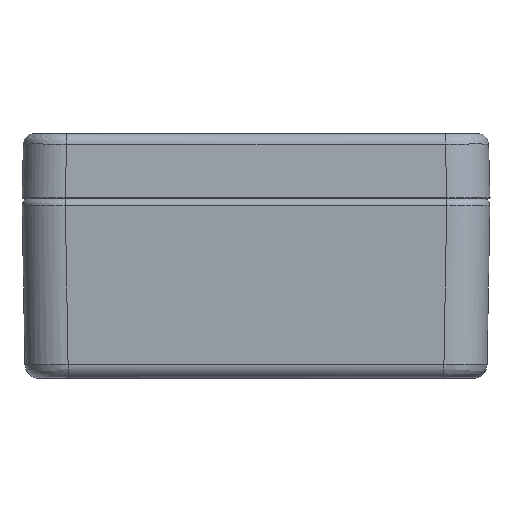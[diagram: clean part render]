
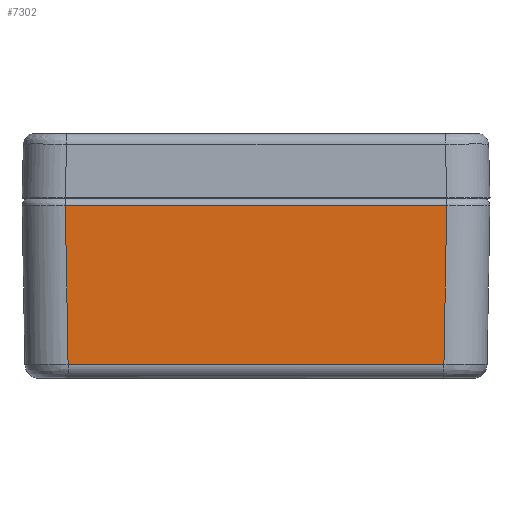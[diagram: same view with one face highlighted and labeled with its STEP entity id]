
A CAD part, left-side view. The second image highlights one B-rep face of the part: STEP entity #7302.
In plain terms, the highlighted planar face has unit normal (-1, 0, -0.018).
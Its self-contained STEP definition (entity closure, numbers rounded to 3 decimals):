
#2078 = VERTEX_POINT ( 'NONE', #17064 ) ;
#2182 = CARTESIAN_POINT ( 'NONE',  ( -49.482, 0., -1.017 ) ) ;
#2354 = LINE ( 'NONE', #6230, #18263 ) ;
#2552 = EDGE_CURVE ( 'NONE', #2078, #5406, #17825, .T. ) ;
#3110 = VECTOR ( 'NONE', #3922, 1000. ) ;
#3216 = EDGE_CURVE ( 'NONE', #5406, #4950, #12992, .T. ) ;
#3922 = DIRECTION ( 'NONE',  ( 0.017, -0.017, -1. ) ) ;
#4158 = ORIENTED_EDGE ( 'NONE', *, *, #3216, .T. ) ;
#4538 = CARTESIAN_POINT ( 'NONE',  ( -49.098, 0., -23.035 ) ) ;
#4824 = DIRECTION ( 'NONE',  ( 0.017, 0.017, -1. ) ) ;
#4950 = VERTEX_POINT ( 'NONE', #6878 ) ;
#5406 = VERTEX_POINT ( 'NONE', #6805 ) ;
#6230 = CARTESIAN_POINT ( 'NONE',  ( -49.282, -26.283, -12.5 ) ) ;
#6282 = DIRECTION ( 'NONE',  ( 0., 1., 0. ) ) ;
#6382 = FACE_OUTER_BOUND ( 'NONE', #13822, .T. ) ;
#6805 = CARTESIAN_POINT ( 'NONE',  ( -49.482, 26.483, -1.017 ) ) ;
#6878 = CARTESIAN_POINT ( 'NONE',  ( -49.098, 26.099, -23.035 ) ) ;
#6929 = DIRECTION ( 'NONE',  ( -0.017, 0., 1. ) ) ;
#7030 = CARTESIAN_POINT ( 'NONE',  ( -49.482, 26.483, -1.017 ) ) ;
#7302 = ADVANCED_FACE ( 'NONE', ( #6382 ), #16117, .T. ) ;
#7353 = ORIENTED_EDGE ( 'NONE', *, *, #16735, .F. ) ;
#10016 = CARTESIAN_POINT ( 'NONE',  ( -49.098, -26.099, -23.035 ) ) ;
#11493 = ORIENTED_EDGE ( 'NONE', *, *, #2552, .T. ) ;
#12992 = LINE ( 'NONE', #7030, #3110 ) ;
#13566 = LINE ( 'NONE', #4538, #18149 ) ;
#13745 = EDGE_CURVE ( 'NONE', #2078, #16161, #2354, .T. ) ;
#13822 = EDGE_LOOP ( 'NONE', ( #16321, #11493, #4158, #7353 ) ) ;
#14701 = DIRECTION ( 'NONE',  ( -1., 0., -0.017 ) ) ;
#16053 = DIRECTION ( 'NONE',  ( 0., 1., 0. ) ) ;
#16117 = PLANE ( 'NONE',  #17944 ) ;
#16161 = VERTEX_POINT ( 'NONE', #10016 ) ;
#16321 = ORIENTED_EDGE ( 'NONE', *, *, #13745, .F. ) ;
#16735 = EDGE_CURVE ( 'NONE', #16161, #4950, #13566, .T. ) ;
#17064 = CARTESIAN_POINT ( 'NONE',  ( -49.482, -26.483, -1.017 ) ) ;
#17695 = CARTESIAN_POINT ( 'NONE',  ( -49.5, 0., 0. ) ) ;
#17825 = LINE ( 'NONE', #2182, #18809 ) ;
#17944 = AXIS2_PLACEMENT_3D ( 'NONE', #17695, #14701, #6929 ) ;
#18149 = VECTOR ( 'NONE', #6282, 1000. ) ;
#18263 = VECTOR ( 'NONE', #4824, 1000. ) ;
#18809 = VECTOR ( 'NONE', #16053, 1000. ) ;
